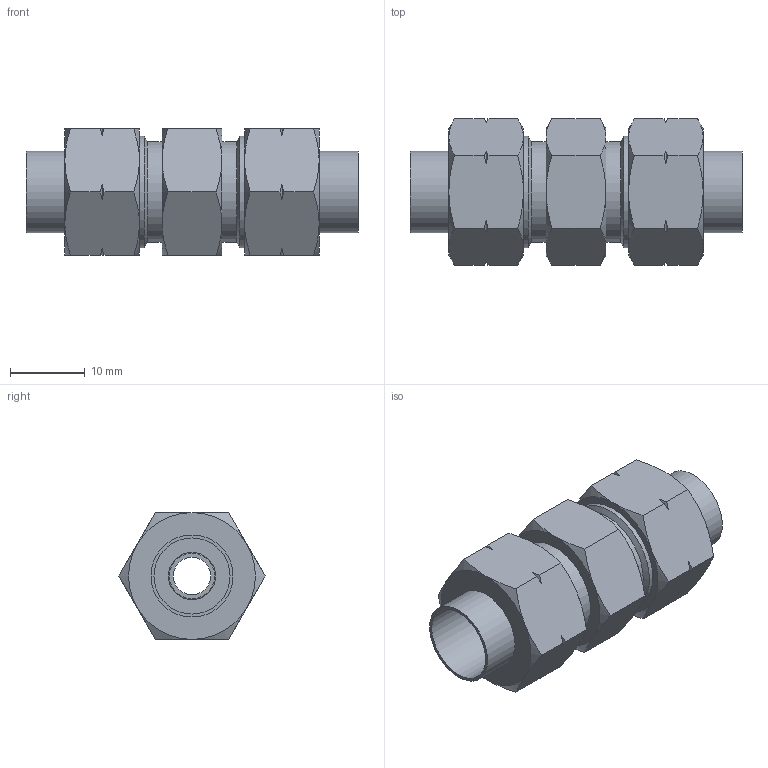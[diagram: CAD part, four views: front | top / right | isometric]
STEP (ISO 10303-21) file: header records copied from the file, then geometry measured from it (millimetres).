
FILE_DESCRIPTION((''),'2;1');
FILE_NAME('D:\INVENTOR\[New Inventor]\CDC Products 3D Ass''y\Two-Touch Fittings\Metric\CUC\CUC10-6.stp','2009-02-25T12:25:13',('Microsoft'),(''),'Autodesk Inventor 2008','Autodesk Inventor 2008','');
FILE_SCHEMA(('AUTOMOTIVE_DESIGN { 1 0 10303 214 1 1 1 1 }'));
Length unit declared in the file: millimetre
Products named in the file (1): CUC10-6
Bounding box: 44.54 x 19.63 x 17 mm (x, y, z)
Volume: 6132.6 mm3; surface area: 5116.6 mm2
Topology: 1 solids, 1 shells, 105 faces, 237 edges, 144 vertices
Faces by surface type: bspline 50, cone 31, plane 18, cylinder 5, torus 1
Full cylindrical faces by diameter (mm): 6.3 x1, 10.2 x1, 11 x1, 13.5 x1, 15 x1
Entity records: 3243 total; most frequent: CARTESIAN_POINT 1421, ORIENTED_EDGE 444, DIRECTION 286, EDGE_CURVE 222, VERTEX_POINT 144, EDGE_LOOP 132, AXIS2_PLACEMENT_3D 128, FACE_OUTER_BOUND 105
